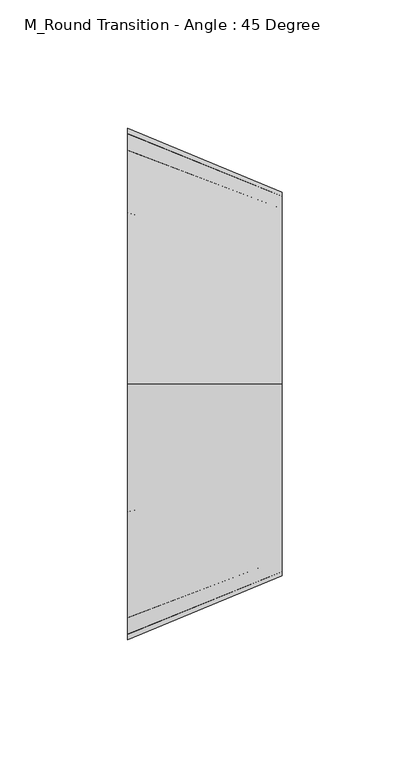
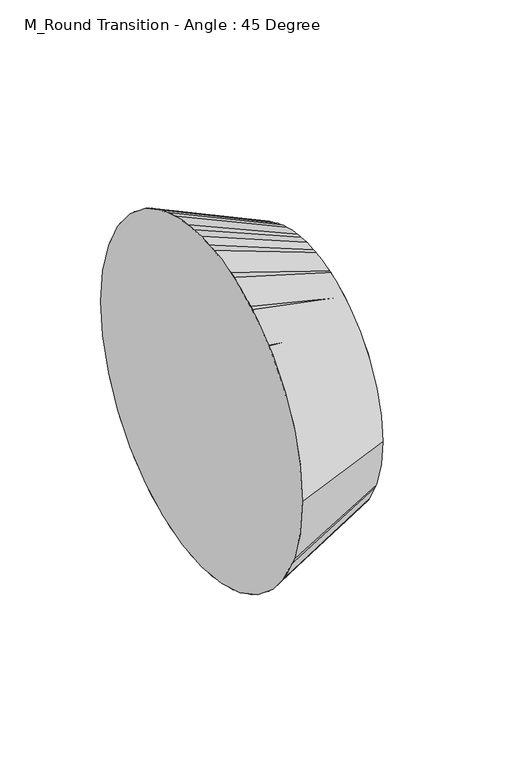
"""IFC4 building model written with IfcOpenShell, lengths in millimetres: duct fitting geometry, M_Round Transition - Angle : 45 Degree."""

from ifc_helpers import new_model, si_unit, frame, origin, place, context, project, spatial, circle_curve, source, transform, mapped, element, save
from ifc_brep_helpers import plane_surface, spline_surface, advanced_brep


def m_round_transition_angle_45_degree_be828d6b(model_context):
    return source(origin(), model_context, "Body", "AdvancedBrep", [
        advanced_brep(
        [(60.3553391, -75.0, 0.0376618), (60.3553391, 0.0, -74.9623382), (60.3553391, 75.0, 0.0376618), (60.3553391, 0.0, 75.0376618), (0.0, -100.0, 0.0), (0.0, 0.0, 100.0), (0.0, 100.0, 0.0), (0.0, 0.0, -100.0)],
        [
            (0, 1, circle_curve(frame((60.3553391, 0.0, 0.0376618), z_axis=(1.0, 0.0, 0.0), x_axis=(0.0, 1.0, 0.0)), 75.0)),
            (1, 2, circle_curve(frame((60.3553391, 0.0, 0.0376618), z_axis=(1.0, 0.0, 0.0), x_axis=(0.0, 1.0, 0.0)), 75.0)),
            (2, 3, circle_curve(frame((60.3553391, 0.0, 0.0376618), z_axis=(1.0, 0.0, 0.0), x_axis=(0.0, 1.0, 0.0)), 75.0)),
            (3, 0, circle_curve(frame((60.3553391, 0.0, 0.0376618), z_axis=(1.0, 0.0, 0.0), x_axis=(0.0, 1.0, 0.0)), 75.0)),
            (4, 5, circle_curve(frame((0.0, 0.0, 0.0), z_axis=(-1.0, 0.0, 0.0), x_axis=(0.0, 1.0, 0.0)), 100.0)),
            (5, 6, circle_curve(frame((0.0, 0.0, 0.0), z_axis=(-1.0, 0.0, 0.0), x_axis=(0.0, 1.0, 0.0)), 100.0)),
            (6, 7, circle_curve(frame((0.0, 0.0, 0.0), z_axis=(-1.0, 0.0, 0.0), x_axis=(0.0, 1.0, 0.0)), 100.0)),
            (7, 4, circle_curve(frame((0.0, 0.0, 0.0), z_axis=(-1.0, 0.0, 0.0), x_axis=(0.0, 1.0, 0.0)), 100.0)),
            (7, 1),
            (0, 4),
            (6, 2),
            (5, 3),
        ],
        [
            plane_surface(frame((60.3553391, 0.0, 0.0376618), z_axis=(1.0, 0.0, 0.0), x_axis=(0.0, 0.0, -1.0))),
            plane_surface(frame((0.0, 0.0, 0.0), z_axis=(-1.0, 0.0, 0.0), x_axis=(0.0, 0.0, -1.0))),
            spline_surface(2, 1, [[(0.0, -100.0, 0.0), (60.3553391, -75.0, 0.0376618)], [(0.0, -100.0, -100.0), (60.3553391, -75.0, -74.9623382)], [(0.0, 0.0, -100.0), (60.3553391, 0.0, -74.9623382)]], [3, 3], [2, 2], [0.0, 1.0], [0.0, 1.0], weights=[[1.0, 1.0], [0.7071067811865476, 0.7071067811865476], [1.0, 1.0]]),
            spline_surface(2, 1, [[(0.0, 0.0, -100.0), (60.3553391, 0.0, -74.9623382)], [(0.0, 100.0, -100.0), (60.3553391, 75.0, -74.9623382)], [(0.0, 100.0, 0.0), (60.3553391, 75.0, 0.0376618)]], [3, 3], [2, 2], [0.0, 1.0], [0.0, 1.0], weights=[[1.0, 1.0], [0.7071067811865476, 0.7071067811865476], [1.0, 1.0]]),
            spline_surface(2, 1, [[(0.0, 100.0, 0.0), (60.3553391, 75.0, 0.0376618)], [(0.0, 100.0, 100.0), (60.3553391, 75.0, 75.0376618)], [(0.0, 0.0, 100.0), (60.3553391, 0.0, 75.0376618)]], [3, 3], [2, 2], [0.0, 1.0], [0.0, 1.0], weights=[[1.0, 1.0], [0.7071067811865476, 0.7071067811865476], [1.0, 1.0]]),
            spline_surface(2, 1, [[(0.0, 0.0, 100.0), (60.3553391, 0.0, 75.0376618)], [(0.0, -100.0, 100.0), (60.3553391, -75.0, 75.0376618)], [(0.0, -100.0, 0.0), (60.3553391, -75.0, 0.0376618)]], [3, 3], [2, 2], [0.0, 1.0], [0.0, 1.0], weights=[[1.0, 1.0], [0.7071067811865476, 0.7071067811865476], [1.0, 1.0]]),
        ],
        [
            (0, [[1, 2, 3, 4]]),
            (1, [[5, 6, 7, 8]]),
            (2, [[-8, 9, -1, 10]]),
            (3, [[-7, 11, -2, -9]]),
            (4, [[-6, 12, -3, -11]]),
            (5, [[-5, -10, -4, -12]]),
        ],
    ),
        advanced_brep(
        [(0.0, -100.0, 0.0), (0.0, 0.0, 100.0), (0.0, 100.0, 0.0), (0.0, 0.0, -100.0), (60.3553391, -75.0, 0.0376618), (60.3553391, 0.0, -74.9623382), (60.3553391, 75.0, 0.0376618), (60.3553391, 0.0, 75.0376618)],
        [
            (0, 1, circle_curve(frame((0.0, 0.0, 0.0), z_axis=(-1.0, 0.0, 0.0), x_axis=(0.0, 1.0, 0.0)), 100.0)),
            (1, 2, circle_curve(frame((0.0, 0.0, 0.0), z_axis=(-1.0, 0.0, 0.0), x_axis=(0.0, 1.0, 0.0)), 100.0)),
            (2, 3, circle_curve(frame((0.0, 0.0, 0.0), z_axis=(-1.0, 0.0, 0.0), x_axis=(0.0, 1.0, 0.0)), 100.0)),
            (3, 0, circle_curve(frame((0.0, 0.0, 0.0), z_axis=(-1.0, 0.0, 0.0), x_axis=(0.0, 1.0, 0.0)), 100.0)),
            (4, 5, circle_curve(frame((60.3553391, 0.0, 0.0376618), z_axis=(1.0, 0.0, 0.0), x_axis=(0.0, 1.0, 0.0)), 75.0)),
            (5, 6, circle_curve(frame((60.3553391, 0.0, 0.0376618), z_axis=(1.0, 0.0, 0.0), x_axis=(0.0, 1.0, 0.0)), 75.0)),
            (6, 7, circle_curve(frame((60.3553391, 0.0, 0.0376618), z_axis=(1.0, 0.0, 0.0), x_axis=(0.0, 1.0, 0.0)), 75.0)),
            (7, 4, circle_curve(frame((60.3553391, 0.0, 0.0376618), z_axis=(1.0, 0.0, 0.0), x_axis=(0.0, 1.0, 0.0)), 75.0)),
            (7, 1),
            (0, 4),
            (6, 2),
            (5, 3),
        ],
        [
            plane_surface(frame((0.0, 0.0, 0.0), z_axis=(-1.0, 0.0, 0.0), x_axis=(0.0, 0.0, -1.0))),
            plane_surface(frame((60.3553391, 0.0, 0.0376618), z_axis=(1.0, 0.0, 0.0), x_axis=(0.0, 0.0, -1.0))),
            spline_surface(2, 1, [[(60.3553391, -75.0, 0.0376618), (0.0, -100.0, 0.0)], [(60.3553391, -75.0, 75.0376618), (0.0, -100.0, 100.0)], [(60.3553391, 0.0, 75.0376618), (0.0, 0.0, 100.0)]], [3, 3], [2, 2], [0.0, 1.0], [0.0, 1.0], weights=[[1.0, 1.0], [0.7071067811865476, 0.7071067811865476], [1.0, 1.0]]),
            spline_surface(2, 1, [[(60.3553391, 0.0, 75.0376618), (0.0, 0.0, 100.0)], [(60.3553391, 75.0, 75.0376618), (0.0, 100.0, 100.0)], [(60.3553391, 75.0, 0.0376618), (0.0, 100.0, 0.0)]], [3, 3], [2, 2], [0.0, 1.0], [0.0, 1.0], weights=[[1.0, 1.0], [0.7071067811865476, 0.7071067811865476], [1.0, 1.0]]),
            spline_surface(2, 1, [[(60.3553391, 75.0, 0.0376618), (0.0, 100.0, 0.0)], [(60.3553391, 75.0, -74.9623382), (0.0, 100.0, -100.0)], [(60.3553391, 0.0, -74.9623382), (0.0, 0.0, -100.0)]], [3, 3], [2, 2], [0.0, 1.0], [0.0, 1.0], weights=[[1.0, 1.0], [0.7071067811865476, 0.7071067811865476], [1.0, 1.0]]),
            spline_surface(2, 1, [[(60.3553391, 0.0, -74.9623382), (0.0, 0.0, -100.0)], [(60.3553391, -75.0, -74.9623382), (0.0, -100.0, -100.0)], [(60.3553391, -75.0, 0.0376618), (0.0, -100.0, 0.0)]], [3, 3], [2, 2], [0.0, 1.0], [0.0, 1.0], weights=[[1.0, 1.0], [0.7071067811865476, 0.7071067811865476], [1.0, 1.0]]),
        ],
        [
            (0, [[1, 2, 3, 4]]),
            (1, [[5, 6, 7, 8]]),
            (2, [[-8, 9, -1, 10]]),
            (3, [[-7, 11, -2, -9]]),
            (4, [[-6, 12, -3, -11]]),
            (5, [[-5, -10, -4, -12]]),
        ],
    ),
        advanced_brep(
        [(60.3553391, -75.0, 0.0376618), (60.3553391, 75.0, 0.0376618), (0.0, -100.0, 0.0), (0.0, 100.0, 0.0)],
        [
            (0, 1, circle_curve(frame((60.3553391, 0.0, 0.0376618), z_axis=(1.0, 0.0, 0.0), x_axis=(0.0, 1.0, 0.0)), 75.0)),
            (1, 0, circle_curve(frame((60.3553391, 0.0, 0.0376618), z_axis=(1.0, 0.0, 0.0), x_axis=(0.0, 1.0, 0.0)), 75.0)),
            (2, 3, circle_curve(frame((0.0, 0.0, 0.0), z_axis=(-1.0, 0.0, 0.0), x_axis=(0.0, 1.0, 0.0)), 100.0)),
            (3, 2, circle_curve(frame((0.0, 0.0, 0.0), z_axis=(-1.0, 0.0, 0.0), x_axis=(0.0, 1.0, 0.0)), 100.0)),
            (3, 1),
            (0, 2),
        ],
        [
            plane_surface(frame((60.3553391, 0.0, 0.0376618), z_axis=(1.0, 0.0, 0.0), x_axis=(0.0, 0.0, -1.0))),
            plane_surface(frame((0.0, 0.0, 0.0), z_axis=(-1.0, 0.0, 0.0), x_axis=(0.0, 0.0, -1.0))),
            spline_surface(2, 1, [[(0.0, -100.0, 0.0), (60.3553391, -75.0, 0.0376618)], [(0.0, -100.0, -100.0), (60.3553391, -75.0, -74.9623382)], [(0.0, 0.0, -100.0), (60.3553391, 0.0, -74.9623382)], [(0.0, 100.0, -100.0), (60.3553391, 75.0, -74.9623382)], [(0.0, 100.0, 0.0), (60.3553391, 75.0, 0.0376618)]], [3, 2, 3], [2, 2], [0.0, 1.0, 2.0], [0.0, 1.0], weights=[[1.0, 1.0], [0.7071067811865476, 0.7071067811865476], [1.0, 1.0], [0.7071067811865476, 0.7071067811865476], [1.0, 1.0]]),
            spline_surface(2, 1, [[(0.0, 100.0, 0.0), (60.3553391, 75.0, 0.0376618)], [(0.0, 100.0, 100.0), (60.3553391, 75.0, 75.0376618)], [(0.0, 0.0, 100.0), (60.3553391, 0.0, 75.0376618)], [(0.0, -100.0, 100.0), (60.3553391, -75.0, 75.0376618)], [(0.0, -100.0, 0.0), (60.3553391, -75.0, 0.0376618)]], [3, 2, 3], [2, 2], [0.0, 1.0, 2.0], [0.0, 1.0], weights=[[1.0, 1.0], [0.7071067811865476, 0.7071067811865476], [1.0, 1.0], [0.7071067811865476, 0.7071067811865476], [1.0, 1.0]]),
        ],
        [
            (0, [[1, 2]]),
            (1, [[3, 4]]),
            (2, [[-4, 5, -1, 6]]),
            (3, [[-3, -6, -2, -5]]),
        ],
    ),
    ])


if __name__ == "__main__":
    model = new_model("IFC4")
    model_context = context("Model", 3, world=origin())
    ifc_project = project(units=[si_unit("LENGTHUNIT", "METRE", prefix="MILLI")], contexts=[model_context])
    site = spatial("IfcSite", under=ifc_project)
    building = spatial("IfcBuilding", under=site)
    placement = place(None, origin())
    m_round_transition_angle_45_degree_shape = m_round_transition_angle_45_degree_be828d6b(model_context)
    element("IfcDuctFitting", 1, ObjectType="M_Round Transition - Angle : 45 Degree", at=placement, inside=building, context=model_context, shape_type="MappedRepresentation", body=[
        mapped(m_round_transition_angle_45_degree_shape, transform((0.0, 0.0, 0.0), x_axis=(1.0, 0.0, 0.0), y_axis=(0.0, 1.0, 0.0), z_axis=(0.0, 0.0, 1.0))),
    ])
    save(model, "model.ifc")
